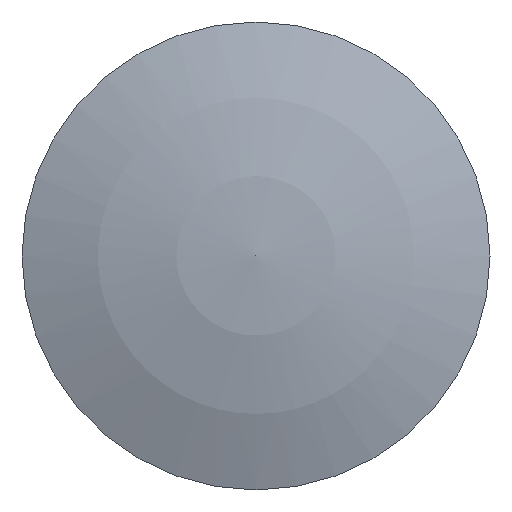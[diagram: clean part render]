
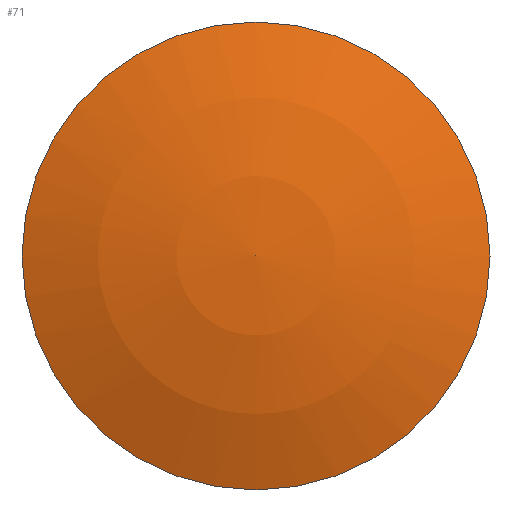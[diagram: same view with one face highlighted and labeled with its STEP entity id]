
A CAD part, top view. The second image highlights one B-rep face of the part: STEP entity #71.
In plain terms, the highlighted spherical face has radius 44.167 mm.
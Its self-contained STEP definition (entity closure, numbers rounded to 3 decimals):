
#15=SPHERICAL_SURFACE('',#84,44.167);
#29=FACE_OUTER_BOUND('',#39,.T.);
#39=EDGE_LOOP('',(#64));
#44=CIRCLE('',#83,16.);
#49=VERTEX_POINT('',#123);
#54=EDGE_CURVE('',#49,#49,#44,.T.);
#64=ORIENTED_EDGE('',*,*,#54,.T.);
#71=ADVANCED_FACE('',(#29),#15,.T.);
#83=AXIS2_PLACEMENT_3D('',#124,#105,#106);
#84=AXIS2_PLACEMENT_3D('',#125,#107,#108);
#105=DIRECTION('center_axis',(0.,0.,1.));
#106=DIRECTION('ref_axis',(1.,0.,0.));
#107=DIRECTION('center_axis',(0.,0.,1.));
#108=DIRECTION('ref_axis',(1.,0.,0.));
#123=CARTESIAN_POINT('',(16.,0.,0.));
#124=CARTESIAN_POINT('Origin',(0.,0.,0.));
#125=CARTESIAN_POINT('Origin',(0.,0.,-41.167));
